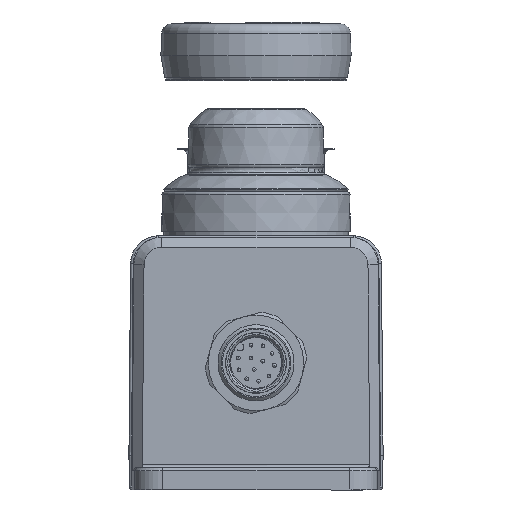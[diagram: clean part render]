
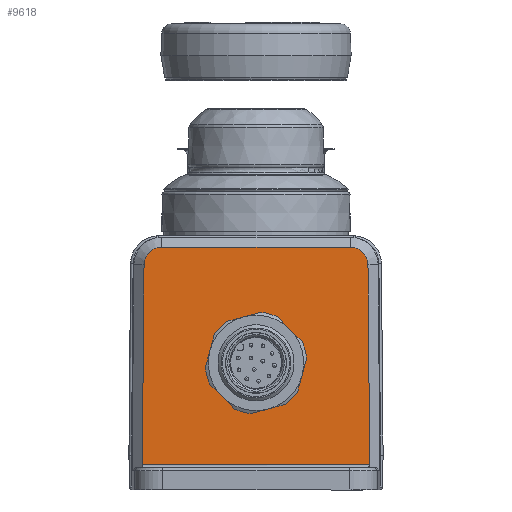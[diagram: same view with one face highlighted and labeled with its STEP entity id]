
A CAD part, front view. The second image highlights one B-rep face of the part: STEP entity #9618.
In plain terms, the highlighted planar face has unit normal (0, -1, 0).
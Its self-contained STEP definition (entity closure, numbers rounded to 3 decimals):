
#176=FACE_BOUND('',#1914,.T.);
#1269=FACE_OUTER_BOUND('',#1913,.T.);
#1913=EDGE_LOOP('',(#8411,#8412,#8413,#8414,#8415,#8416));
#1914=EDGE_LOOP('',(#8417));
#2485=LINE('',#18620,#3022);
#2517=LINE('',#18700,#3054);
#2520=LINE('',#18711,#3057);
#2523=LINE('',#18720,#3060);
#3022=VECTOR('',#13274,10.);
#3054=VECTOR('',#13348,10.);
#3057=VECTOR('',#13359,10.);
#3060=VECTOR('',#13370,10.);
#3607=CIRCLE('',#10730,6.05);
#3617=CIRCLE('',#10757,2.8);
#3619=CIRCLE('',#10761,2.8);
#4455=VERTEX_POINT('',#18609);
#4456=VERTEX_POINT('',#18613);
#4459=VERTEX_POINT('',#18618);
#4486=VERTEX_POINT('',#18698);
#4488=VERTEX_POINT('',#18704);
#4490=VERTEX_POINT('',#18709);
#4492=VERTEX_POINT('',#18716);
#5761=EDGE_CURVE('',#4455,#4455,#3607,.T.);
#5765=EDGE_CURVE('',#4459,#4456,#2485,.T.);
#5805=EDGE_CURVE('',#4486,#4459,#2517,.T.);
#5808=EDGE_CURVE('',#4488,#4486,#3617,.T.);
#5810=EDGE_CURVE('',#4490,#4488,#2520,.T.);
#5814=EDGE_CURVE('',#4492,#4490,#3619,.T.);
#5815=EDGE_CURVE('',#4456,#4492,#2523,.T.);
#8411=ORIENTED_EDGE('',*,*,#5765,.F.);
#8412=ORIENTED_EDGE('',*,*,#5805,.F.);
#8413=ORIENTED_EDGE('',*,*,#5808,.F.);
#8414=ORIENTED_EDGE('',*,*,#5810,.F.);
#8415=ORIENTED_EDGE('',*,*,#5814,.F.);
#8416=ORIENTED_EDGE('',*,*,#5815,.F.);
#8417=ORIENTED_EDGE('',*,*,#5761,.T.);
#9103=PLANE('',#10778);
#9618=ADVANCED_FACE('',(#1269,#176),#9103,.T.);
#10730=AXIS2_PLACEMENT_3D('',#18611,#13265,#13266);
#10757=AXIS2_PLACEMENT_3D('',#18706,#13354,#13355);
#10761=AXIS2_PLACEMENT_3D('',#18718,#13366,#13367);
#10778=AXIS2_PLACEMENT_3D('',#18761,#13417,#13418);
#13265=DIRECTION('center_axis',(0.,1.,0.));
#13266=DIRECTION('ref_axis',(-0.966,0.,0.259));
#13274=DIRECTION('',(-1.,0.,0.));
#13348=DIRECTION('',(0.009,0.,-1.));
#13354=DIRECTION('center_axis',(0.,1.,0.));
#13355=DIRECTION('ref_axis',(0.704,0.,0.71));
#13359=DIRECTION('',(1.,0.,0.));
#13366=DIRECTION('center_axis',(0.,1.,0.));
#13367=DIRECTION('ref_axis',(-0.704,0.,0.71));
#13370=DIRECTION('',(0.009,0.,1.));
#13417=DIRECTION('center_axis',(0.,-1.,0.));
#13418=DIRECTION('ref_axis',(-1.,0.,0.));
#18609=CARTESIAN_POINT('',(5.844,-7.,-1.566));
#18611=CARTESIAN_POINT('Origin',(0.,-7.,0.));
#18613=CARTESIAN_POINT('',(-17.896,-7.,-16.));
#18618=CARTESIAN_POINT('',(17.896,-7.,-16.));
#18620=CARTESIAN_POINT('',(9.75,-7.,-16.));
#18698=CARTESIAN_POINT('',(17.621,-7.,15.424));
#18700=CARTESIAN_POINT('',(17.828,-7.,-8.27));
#18704=CARTESIAN_POINT('',(14.821,-7.,18.2));
#18706=CARTESIAN_POINT('Origin',(14.821,-7.,15.4));
#18709=CARTESIAN_POINT('',(-14.821,-7.,18.2));
#18711=CARTESIAN_POINT('',(9.592,-7.,18.2));
#18716=CARTESIAN_POINT('',(-17.621,-7.,15.424));
#18718=CARTESIAN_POINT('Origin',(-14.821,-7.,15.4));
#18720=CARTESIAN_POINT('',(-17.67,-7.,9.88));
#18761=CARTESIAN_POINT('Origin',(0.,-7.,-0.18));
